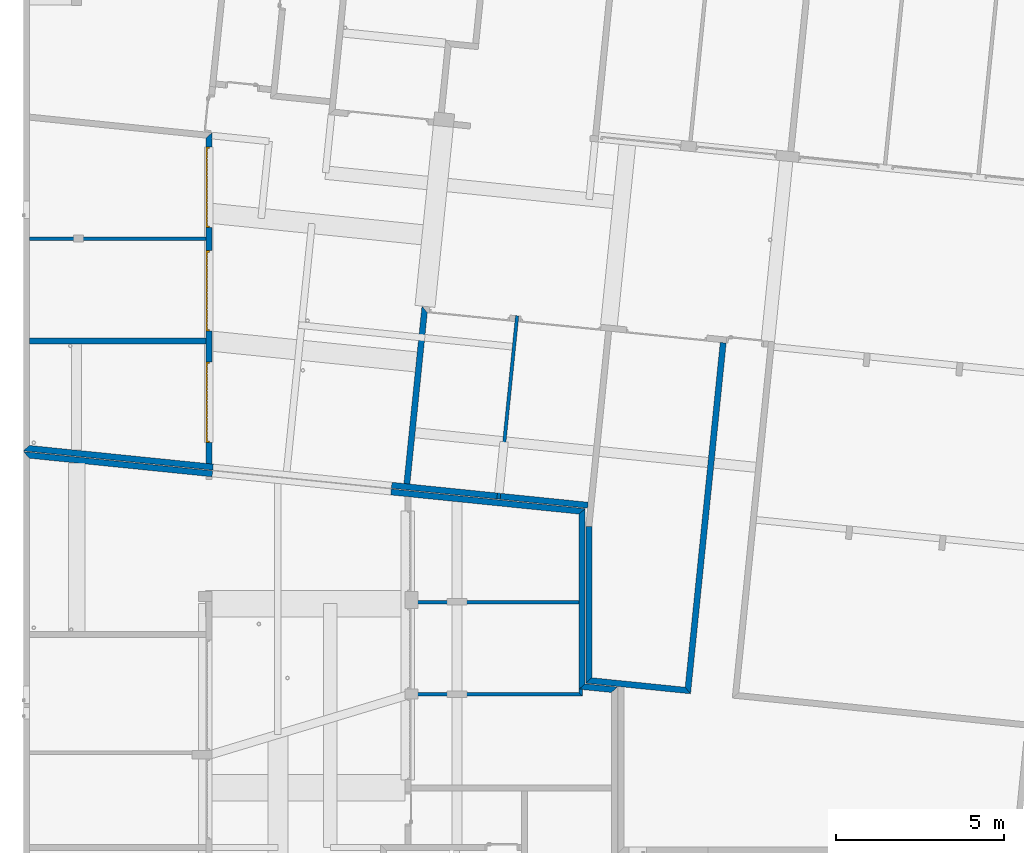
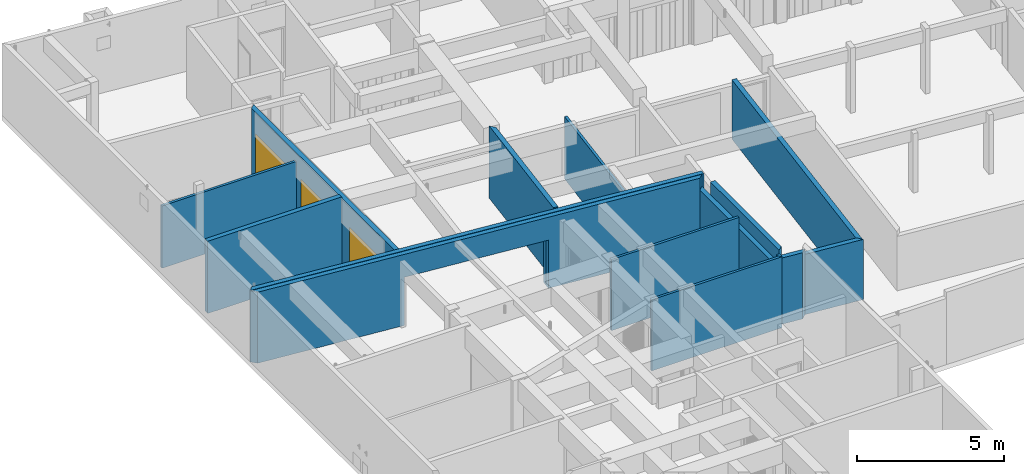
# One storey, part 15 of 41: 15 walls, 3 doors, 5 openings.
"""IFC2X3 building model written with IfcOpenShell, lengths in millimetres."""

from ifc_helpers import new_model, entity, si_unit, converted_unit, derived_unit, money_unit, direction, frame, origin_with_axes, origin_2d_with_axis, place, context, subcontext, project, spatial, polyline, rectangle, outline, extrude, faceted_brep, source, transform, mapped, material, layer, layer_set, layer_usage, type_object, element, fill, save


model = new_model("IFC2X3")

# Units and contexts
model_context = context("Model", 3, precision=0.01, world=origin_with_axes(), true_north=direction((0.0, 1.0)))
body_context = subcontext(model_context, "Body", "Model", "MODEL_VIEW")
ifc_project = project(units=[si_unit("LENGTHUNIT", "METRE", prefix="MILLI"), si_unit("AREAUNIT", "SQUARE_METRE"), si_unit("VOLUMEUNIT", "CUBIC_METRE"), converted_unit("PLANEANGLEUNIT", "DEGREE", entity("IfcPlaneAngleMeasure", 0.0174532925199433), si_unit("PLANEANGLEUNIT", "RADIAN"), dimensions=[0, 0, 0, 0, 0, 0, 0]), money_unit("USD"), converted_unit("TIMEUNIT", "Year", entity("IfcTimeMeasure", 31557600.0), si_unit("TIMEUNIT", "SECOND"), dimensions=[0, 0, 1, 0, 0, 0, 0]), si_unit("MASSUNIT", "GRAM", prefix="KILO"), si_unit("THERMODYNAMICTEMPERATUREUNIT", "DEGREE_CELSIUS"), si_unit("LUMINOUSINTENSITYUNIT", "LUMEN"), si_unit("ENERGYUNIT", "JOULE", prefix="MEGA"), derived_unit("THERMALCONDUCTANCEUNIT", [(si_unit("POWERUNIT", "WATT"), 1), (si_unit("LENGTHUNIT", "METRE"), -1), (si_unit("THERMODYNAMICTEMPERATUREUNIT", "KELVIN"), -1)]), derived_unit("SPECIFICHEATCAPACITYUNIT", [(si_unit("ENERGYUNIT", "JOULE"), 1), (si_unit("MASSUNIT", "GRAM", prefix="KILO"), -1), (si_unit("THERMODYNAMICTEMPERATUREUNIT", "KELVIN"), -1)]), derived_unit("MASSDENSITYUNIT", [(si_unit("MASSUNIT", "GRAM", prefix="KILO"), 1), (si_unit("VOLUMEUNIT", "CUBIC_METRE"), -1)])], contexts=[model_context])

# Site, building, storey
site_placement = place(None, origin_with_axes())
site = spatial("IfcSite", under=ifc_project, at=site_placement, Name="Site", CompositionType="ELEMENT")
building_placement = place(site_placement, origin_with_axes())
building = spatial("IfcBuilding", under=site, at=building_placement, Name="Bâtiment", CompositionType="ELEMENT")
storey_placement = place(building_placement, origin_with_axes())
storey = spatial("IfcBuildingStorey", under=building, at=storey_placement, Name="sousol", CompositionType="ELEMENT", Elevation=0.0)

# Walls
ifc_material_1 = material(Name="Brique 1 268964100")
ifc_layer_1 = layer(ifc_material_1, 100.0, ventilated="UNKNOWN")
ifc_layer_set_1 = layer_set([ifc_layer_1], Name="Cloison 100 gaine")
ifc_layer_usage_1 = layer_usage(ifc_layer_set_1, "AXIS2", "POSITIVE", 0.0)
wall_type_1 = type_object("IfcWallType", Name="Cloison 100 gaine 100", PredefinedType="NOTDEFINED")
wall_1_placement = place(storey_placement, frame((2228014.233344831, -625250.539288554, 0.0), z_axis=(0.0, 0.0, 1.0), x_axis=(1.0, 0.0, 0.0)))
element("IfcWallStandardCase", 1, at=wall_1_placement, inside=storey, type_object=wall_type_1, material=ifc_layer_usage_1, Name="Mur-133", context=body_context, shape_type="SweptSolid", body=[
    extrude(outline(polyline([(179.99999999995, 0.0), (5199.999999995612, 0.0), (5199.999999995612, 100.0000000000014), (179.99999999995, 100.0000000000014), (179.99999999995, 0.0)])), origin_with_axes(), (0.0, 0.0, 1.0), 2950.0),
])
ifc_layer_usage_2 = layer_usage(ifc_layer_set_1, "AXIS2", "POSITIVE", 0.0)
wall_2_placement = place(storey_placement, frame((2228014.233344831, -628000.539288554, 0.0), z_axis=(0.0, 0.0, 1.0), x_axis=(1.0, 0.0, 0.0)))
element("IfcWallStandardCase", 2, at=wall_2_placement, inside=storey, type_object=wall_type_1, material=ifc_layer_usage_2, Name="Mur-133", context=body_context, shape_type="SweptSolid", body=[
    extrude(outline(polyline([(179.99999999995, 0.0), (5299.999999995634, 0.0), (5199.999999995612, 100.0000000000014), (179.99999999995, 100.0000000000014), (179.99999999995, 0.0)])), origin_with_axes(), (0.0, 0.0, 1.0), 2950.0),
])
ifc_layer_usage_3 = layer_usage(ifc_layer_set_1, "AXIS2", "NEGATIVE", 0.0)
wall_3_placement = place(storey_placement, frame((2233214.233344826, -628000.539288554, 0.0), z_axis=(0.0, 0.0, 1.0), x_axis=(0.0, 1.0, 0.0)))
element("IfcWallStandardCase", 3, at=wall_3_placement, inside=storey, type_object=wall_type_1, material=ifc_layer_usage_3, Name="Mur-133", context=body_context, shape_type="SweptSolid", body=[
    extrude(outline(polyline([(0.0, -100.0000000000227), (200.1516925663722, -100.0000000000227), (200.1516925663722, 0.0), (100.0000000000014, 0.0), (0.0, -100.0000000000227)])), origin_with_axes(), (0.0, 0.0, 1.0), 2950.0),
])
ifc_layer_usage_4 = layer_usage(ifc_layer_set_1, "AXIS2", "POSITIVE", 0.0)
wall_4_placement = place(storey_placement, frame((2216634.233344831, -614407.5058083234, 0.0), z_axis=(0.0, 0.0, 1.0), x_axis=(1.0, 0.0, 0.0)))
element("IfcWallStandardCase", 4, at=wall_4_placement, inside=storey, type_object=wall_type_1, material=ifc_layer_usage_4, Name="Mur-133", context=body_context, shape_type="SweptSolid", body=[
    extrude(outline(polyline([(179.9999999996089, 0.0), (5450.00000000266, 0.0), (5450.00000000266, 100.0000000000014), (179.9999999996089, 100.0000000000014), (179.9999999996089, 0.0)])), origin_with_axes(), (0.0, 0.0, 1.0), 2586.039272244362),
])
ifc_layer_usage_5 = layer_usage(ifc_layer_set_1, "AXIS2", "NEGATIVE", 0.0)
wall_5_placement = place(storey_placement, frame((2230760.918828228, -622124.956043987, 0.0), z_axis=(0.0, 0.0, 1.0), x_axis=(0.1011032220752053, 0.9948759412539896, 0.0)))
element("IfcWallStandardCase", 5, at=wall_5_placement, inside=storey, type_object=wall_type_1, material=ifc_layer_usage_5, Name="Mur-133", context=body_context, shape_type="SweptSolid", body=[
    extrude(outline(polyline([(0.0, -99.99999999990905), (5499.999999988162, -99.99999999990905), (5499.999999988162, 0.0), (0.0, 0.0), (0.0, -99.99999999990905)])), origin_with_axes(), (0.0, 0.0, 1.0), 2586.039272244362),
])
ifc_material_2 = material(Name="Parpaing 314940890")
ifc_layer_2 = layer(ifc_material_2, 180.0, ventilated="UNKNOWN")
ifc_layer_set_2 = layer_set([ifc_layer_2], Name="Beton  18 0170347028")
ifc_layer_usage_6 = layer_usage(ifc_layer_set_2, "AXIS2", "NEGATIVE", 0.0)
wall_type_2 = type_object("IfcWallType", Name="Beton  18 0170347028 180", PredefinedType="NOTDEFINED")
wall_6_placement = place(storey_placement, frame((2233394.233344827, -622593.6074482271, 0.0), z_axis=(0.0, 0.0, 1.0), x_axis=(0.0, -1.0, 0.0)))
element("IfcWallStandardCase", 6, at=wall_6_placement, inside=storey, type_object=wall_type_2, material=ifc_layer_usage_6, Name="Mur-132", context=body_context, shape_type="SweptSolid", body=[
    extrude(outline(polyline([(-18.29231084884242, -179.99999999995), (5206.780147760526, -179.99999999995), (5044.14537761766, 0.0), (-180.9270809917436, 0.0), (-18.29231084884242, -179.99999999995)])), origin_with_axes(), (0.0, 0.0, 1.0), 2459.999999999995),
])
ifc_layer_usage_7 = layer_usage(ifc_layer_set_2, "AXIS2", "NEGATIVE", 0.0)
wall_7_placement = place(storey_placement, frame((2227969.512001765, -621841.2957522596, 0.0), z_axis=(0.0, 0.0, 1.0), x_axis=(0.1011032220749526, 0.9948759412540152, 0.0)))
element("IfcWallStandardCase", 7, at=wall_7_placement, inside=storey, type_object=wall_type_2, material=ifc_layer_usage_7, Name="Mur-132", context=body_context, shape_type="SweptSolid", body=[
    extrude(outline(polyline([(179.9999999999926, -180.0000000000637), (5319.999999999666, -180.0000000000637), (5499.999999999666, 0.0), (179.9999999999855, 0.0), (179.9999999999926, -180.0000000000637)])), origin_with_axes(), (0.0, 0.0, 1.0), 3000.0),
])
ifc_layer_usage_8 = layer_usage(ifc_layer_set_2, "AXIS2", "POSITIVE", 0.0)
wall_8_placement = place(storey_placement, frame((2216634.233344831, -617507.5058083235, 0.0), z_axis=(0.0, 0.0, 1.0), x_axis=(1.0, 0.0, 0.0)))
element("IfcWallStandardCase", 8, at=wall_8_placement, inside=storey, type_object=wall_type_2, material=ifc_layer_usage_8, Name="Mur-132", context=body_context, shape_type="SweptSolid", body=[
    extrude(outline(polyline([(179.9999999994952, 0.0), (5450.000000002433, 0.0), (5450.000000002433, 179.9999999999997), (179.9999999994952, 179.9999999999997), (179.9999999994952, 0.0)])), origin_with_axes(), (0.0, 0.0, 1.0), 3000.0),
])

# Wall, opening
ifc_layer_usage_9 = layer_usage(ifc_layer_set_2, "AXIS2", "NEGATIVE", 0.0)
wall_9_placement = place(storey_placement, frame((2233468.920997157, -622400.1674124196, 0.0), z_axis=(0.0, 0.0, 1.0), x_axis=(-0.9948759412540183, 0.1011032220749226, 0.0)))
wall_9 = element("IfcWallStandardCase", 9, at=wall_9_placement, inside=storey, type_object=wall_type_2, material=ifc_layer_usage_9, Name="Mur-132", context=body_context, shape_type="SweptSolid", body=[
    extrude(outline(polyline([(0.04832833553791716, -179.9999999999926), (16758.75909843, -179.9999999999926), (16921.39386857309, 0.0), (-1.13686837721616e-10, 0.0), (0.04832833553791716, -179.9999999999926)])), origin_with_axes(), (0.0, 0.0, 1.0), 2950.0),
])
opening_1_placement = place(wall_9_placement, frame((8563.581693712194, 0.0, 0.0), z_axis=(0.0, 0.0, 1.0), x_axis=(1.0, 0.0, 0.0)))
element("IfcOpeningElement", 10, at=opening_1_placement, cuts=wall_9, Name="Por-253", context=body_context, shape_type="SweptSolid", body=[
    extrude(rectangle(XDim=5356.980703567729, YDim=2000.0, at=origin_2d_with_axis()), frame((0.0, -180.000000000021, 999.9999999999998), z_axis=(0.0, 1.0, 0.0), x_axis=(1.0, 0.0, 0.0)), (0.0, 0.0, -1.0), 180.0),
    extrude(rectangle(XDim=5356.980703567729, YDim=2000.0, at=origin_2d_with_axis()), frame((0.0, -180.0000000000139, 999.9999999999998), z_axis=(0.0, -1.0, 0.0), x_axis=(1.0, 0.0, 0.0)), (0.0, 0.0, -1.0), 180.0),
])

ifc_layer_usage_10 = layer_usage(ifc_layer_set_2, "AXIS2", "NEGATIVE", 0.0)
wall_10_placement = place(storey_placement, frame((2233394.233344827, -622593.6074482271, 0.0), z_axis=(0.0, 0.0, 1.0), x_axis=(-0.9948759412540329, 0.1011032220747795, 0.0)))
wall_10 = element("IfcWallStandardCase", 11, at=wall_10_placement, inside=storey, type_object=wall_type_2, material=ifc_layer_usage_10, Name="Mur-133", context=body_context, shape_type="SweptSolid", body=[
    extrude(outline(polyline([(18.29231084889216, -179.9999999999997), (16864.61385207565, -180.0000000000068), (16665.39446023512, 0.0), (180.9270809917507, 0.0), (18.29231084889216, -179.9999999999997)])), origin_with_axes(), (0.0, 0.0, 1.0), 2950.0),
])
opening_2_placement = place(wall_10_placement, frame((8508.8341561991, 0.0, 0.0), z_axis=(0.0, 0.0, 1.0), x_axis=(1.0, 0.0, 0.0)))
element("IfcOpeningElement", 12, at=opening_2_placement, cuts=wall_10, Name="Por-254", context=body_context, shape_type="SweptSolid", body=[
    extrude(rectangle(XDim=5356.980703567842, YDim=2000.0, at=origin_2d_with_axis()), frame((0.0, 0.0, 999.9999999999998), z_axis=(0.0, -1.0, 0.0), x_axis=(1.0, 0.0, 0.0)), (0.0, 0.0, -1.0), 180.0),
    extrude(rectangle(XDim=5356.980703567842, YDim=2000.0, at=origin_2d_with_axis()), frame((0.0, 0.0, 999.9999999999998), z_axis=(0.0, 1.0, 0.0), x_axis=(1.0, 0.0, 0.0)), (0.0, 0.0, -1.0), 180.0),
])

# Wall
ifc_layer_usage_11 = layer_usage(ifc_layer_set_2, "AXIS2", "NEGATIVE", 0.0)
wall_11_placement = place(storey_placement, frame((2233394.233344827, -627637.7528258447, 0.0), z_axis=(0.0, 0.0, 1.0), x_axis=(0.994875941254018, -0.1011032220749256, 0.0)))
element("IfcWallStandardCase", 13, at=wall_11_placement, inside=storey, type_object=wall_type_2, material=ifc_layer_usage_11, Name="Mur-133", context=body_context, shape_type="SweptSolid", body=[
    extrude(outline(polyline([(-162.6347701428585, -180.0000000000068), (804.7300641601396, -179.9999999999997), (967.3648343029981, 0.0), (0.0, 0.0), (-162.6347701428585, -180.0000000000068)])), origin_with_axes(), (0.0, 0.0, 1.0), 2749.08057622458),
])

# Wall, openings, doors
ifc_layer_usage_12 = layer_usage(ifc_layer_set_2, "AXIS2", "NEGATIVE", 0.0)
wall_12_placement = place(storey_placement, frame((2222264.233344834, -611195.1773865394, 0.0), z_axis=(0.0, 0.0, 1.0), x_axis=(0.0, -1.0, 0.0)))
wall_12 = element("IfcWallStandardCase", 14, at=wall_12_placement, inside=storey, type_object=wall_type_2, material=ifc_layer_usage_12, Name="Mur-133", context=body_context, shape_type="SweptSolid", body=[
    extrude(outline(polyline([(162.6347701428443, -179.99999999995), (9867.106025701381, -179.99999999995), (9885.398336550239, 0.0), (0.0, 0.0), (162.6347701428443, -179.99999999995)])), origin_with_axes(), (0.0, 0.0, 1.0), 2950.0),
])
opening_3_placement = place(wall_12_placement, frame((4719.738371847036, -6.821210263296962e-10, 0.0), z_axis=(0.0, 0.0, 1.0), x_axis=(1.0, 0.0, 0.0)))
opening_3 = element("IfcOpeningElement", 15, at=opening_3_placement, cuts=wall_12, Name="Por-296", context=body_context, shape_type="SweptSolid", body=[
    extrude(rectangle(XDim=2400.000000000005, YDim=2050.0, at=origin_2d_with_axis()), frame((0.0, -179.9999999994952, 1025.0), z_axis=(0.0, 1.0, 0.0), x_axis=(1.0, 0.0, 0.0)), (0.0, 0.0, -1.0), 180.0),
    extrude(rectangle(XDim=2400.000000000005, YDim=2050.0, at=origin_2d_with_axis()), frame((0.0, -179.9999999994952, 1025.0), z_axis=(0.0, -1.0, 0.0), x_axis=(1.0, 0.0, 0.0)), (0.0, 0.0, -1.0), 180.0),
])
opening_4_placement = place(wall_12_placement, frame((1629.619902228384, -3.410605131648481e-10, 0.0), z_axis=(0.0, 0.0, 1.0), x_axis=(1.0, 0.0, 0.0)))
opening_4 = element("IfcOpeningElement", 16, at=opening_4_placement, cuts=wall_12, Name="Por-296", context=body_context, shape_type="SweptSolid", body=[
    extrude(rectangle(XDim=2400.000000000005, YDim=2050.0, at=origin_2d_with_axis()), frame((0.0, -179.9999999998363, 1025.0), z_axis=(0.0, 1.0, 0.0), x_axis=(1.0, 0.0, 0.0)), (0.0, 0.0, -1.0), 180.0),
    extrude(rectangle(XDim=2400.000000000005, YDim=2050.0, at=origin_2d_with_axis()), frame((0.0, -179.9999999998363, 1025.0), z_axis=(0.0, -1.0, 0.0), x_axis=(1.0, 0.0, 0.0)), (0.0, 0.0, -1.0), 180.0),
])
opening_5_placement = place(wall_12_placement, frame((8043.627181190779, -9.094947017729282e-10, 0.0), z_axis=(0.0, 0.0, 1.0), x_axis=(1.0, 0.0, 0.0)))
opening_5 = element("IfcOpeningElement", 17, at=opening_5_placement, cuts=wall_12, Name="Por-296", context=body_context, shape_type="SweptSolid", body=[
    extrude(rectangle(XDim=2399.999999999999, YDim=2050.0, at=origin_2d_with_axis()), frame((0.0, -179.9999999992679, 1025.0), z_axis=(0.0, 1.0, 0.0), x_axis=(1.0, 0.0, 0.0)), (0.0, 0.0, -1.0), 180.0),
    extrude(rectangle(XDim=2399.999999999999, YDim=2050.0, at=origin_2d_with_axis()), frame((0.0, -179.9999999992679, 1025.0), z_axis=(0.0, -1.0, 0.0), x_axis=(1.0, 0.0, 0.0)), (0.0, 0.0, -1.0), 180.0),
])
door_style = type_object("IfcDoorStyle", Name="P_garage 1", ConstructionType="NOTDEFINED", OperationType="NOTDEFINED", ParameterTakesPrecedence=False, Sizeable=False)
shared_shape = source(origin_with_axes(), body_context, "Body", "Brep", [
    faceted_brep([(-1200.0, 0.0, 0.0), (-1150.0, 0.0, 0.0), (-1150.0, -100.0, 0.0), (-1200.0, -100.0, 0.0), (-1200.0, 0.0, 2050.0), (1200.0, 0.0, 2050.0), (1200.0, 0.0, 0.0), (1150.0, 0.0, 0.0), (1150.0, 0.0, 2000.0), (-1150.0, 0.0, 2000.0), (-1150.0, -100.0, 2000.0), (1150.0, -100.0, 2000.0), (1150.0, -100.0, 0.0), (1200.0, -100.0, 0.0), (1200.0, -100.0, 2050.0), (-1200.0, -100.0, 2050.0)], [[[0, 1, 2, 3]], [[0, 4, 5, 6, 7, 8, 9, 1]], [[1, 9, 10, 2]], [[3, 2, 10, 11, 12, 13, 14, 15]], [[4, 0, 3, 15]], [[5, 4, 15, 14]], [[6, 5, 14, 13]], [[7, 6, 13, 12]], [[8, 7, 12, 11]], [[9, 8, 11, 10]]]),
    faceted_brep([(-1069.130434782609, -40.0, 0.0), (-1069.130434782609, -26.66666666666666, 0.0), (-1069.130434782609, -26.66666666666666, 2000.0), (-1069.130434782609, -40.0, 2000.0), (-1150.0, -40.0, 0.0), (-1150.0, -26.66666666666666, 0.0), (-1150.0, -26.66666666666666, 2000.0), (-1150.0, -40.0, 2000.0)], [[[0, 1, 2, 3]], [[4, 5, 1, 0]], [[1, 5, 6, 2]], [[3, 2, 6, 7]], [[0, 3, 7, 4]], [[7, 6, 5, 4]]]),
    faceted_brep([(-968.2608695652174, -40.0, 0.0), (-968.2608695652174, -26.66666666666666, 0.0), (-968.2608695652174, -26.66666666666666, 2000.0), (-968.2608695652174, -40.0, 2000.0), (-1049.130434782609, -40.0, 0.0), (-1049.130434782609, -26.66666666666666, 0.0), (-1049.130434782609, -26.66666666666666, 2000.0), (-1049.130434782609, -40.0, 2000.0)], [[[0, 1, 2, 3]], [[4, 5, 1, 0]], [[1, 5, 6, 2]], [[3, 2, 6, 7]], [[0, 3, 7, 4]], [[7, 6, 5, 4]]]),
    faceted_brep([(-867.3913043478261, -40.0, 0.0), (-867.3913043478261, -26.66666666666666, 0.0), (-867.3913043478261, -26.66666666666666, 2000.0), (-867.3913043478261, -40.0, 2000.0), (-948.2608695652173, -40.0, 0.0), (-948.2608695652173, -26.66666666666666, 0.0), (-948.2608695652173, -26.66666666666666, 2000.0), (-948.2608695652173, -40.0, 2000.0)], [[[0, 1, 2, 3]], [[4, 5, 1, 0]], [[1, 5, 6, 2]], [[3, 2, 6, 7]], [[0, 3, 7, 4]], [[7, 6, 5, 4]]]),
    faceted_brep([(-766.5217391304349, -40.0, 0.0), (-766.5217391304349, -26.66666666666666, 0.0), (-766.5217391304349, -26.66666666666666, 2000.0), (-766.5217391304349, -40.0, 2000.0), (-847.391304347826, -40.0, 0.0), (-847.391304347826, -26.66666666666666, 0.0), (-847.391304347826, -26.66666666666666, 2000.0), (-847.391304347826, -40.0, 2000.0)], [[[0, 1, 2, 3]], [[4, 5, 1, 0]], [[1, 5, 6, 2]], [[3, 2, 6, 7]], [[0, 3, 7, 4]], [[7, 6, 5, 4]]]),
    faceted_brep([(-665.6521739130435, -40.0, 0.0), (-665.6521739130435, -26.66666666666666, 0.0), (-665.6521739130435, -26.66666666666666, 2000.0), (-665.6521739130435, -40.0, 2000.0), (-746.5217391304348, -40.0, 0.0), (-746.5217391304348, -26.66666666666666, 0.0), (-746.5217391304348, -26.66666666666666, 2000.0), (-746.5217391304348, -40.0, 2000.0)], [[[0, 1, 2, 3]], [[4, 5, 1, 0]], [[1, 5, 6, 2]], [[3, 2, 6, 7]], [[0, 3, 7, 4]], [[7, 6, 5, 4]]]),
    faceted_brep([(-564.7826086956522, -40.0, 0.0), (-564.7826086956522, -26.66666666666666, 0.0), (-564.7826086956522, -26.66666666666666, 2000.0), (-564.7826086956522, -40.0, 2000.0), (-645.6521739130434, -40.0, 0.0), (-645.6521739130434, -26.66666666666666, 0.0), (-645.6521739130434, -26.66666666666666, 2000.0), (-645.6521739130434, -40.0, 2000.0)], [[[0, 1, 2, 3]], [[4, 5, 1, 0]], [[1, 5, 6, 2]], [[3, 2, 6, 7]], [[0, 3, 7, 4]], [[7, 6, 5, 4]]]),
    faceted_brep([(-463.9130434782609, -40.0, 0.0), (-463.9130434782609, -26.66666666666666, 0.0), (-463.9130434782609, -26.66666666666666, 2000.0), (-463.9130434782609, -40.0, 2000.0), (-544.7826086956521, -40.0, 0.0), (-544.7826086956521, -26.66666666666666, 0.0), (-544.7826086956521, -26.66666666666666, 2000.0), (-544.7826086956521, -40.0, 2000.0)], [[[0, 1, 2, 3]], [[4, 5, 1, 0]], [[1, 5, 6, 2]], [[3, 2, 6, 7]], [[0, 3, 7, 4]], [[7, 6, 5, 4]]]),
    faceted_brep([(-363.0434782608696, -40.0, 0.0), (-363.0434782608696, -26.66666666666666, 0.0), (-363.0434782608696, -26.66666666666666, 2000.0), (-363.0434782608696, -40.0, 2000.0), (-443.9130434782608, -40.0, 0.0), (-443.9130434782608, -26.66666666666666, 0.0), (-443.9130434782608, -26.66666666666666, 2000.0), (-443.9130434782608, -40.0, 2000.0)], [[[0, 1, 2, 3]], [[4, 5, 1, 0]], [[1, 5, 6, 2]], [[3, 2, 6, 7]], [[0, 3, 7, 4]], [[7, 6, 5, 4]]]),
    faceted_brep([(-262.1739130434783, -40.0, 0.0), (-262.1739130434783, -26.66666666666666, 0.0), (-262.1739130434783, -26.66666666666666, 2000.0), (-262.1739130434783, -40.0, 2000.0), (-343.0434782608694, -40.0, 0.0), (-343.0434782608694, -26.66666666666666, 0.0), (-343.0434782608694, -26.66666666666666, 2000.0), (-343.0434782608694, -40.0, 2000.0)], [[[0, 1, 2, 3]], [[4, 5, 1, 0]], [[1, 5, 6, 2]], [[3, 2, 6, 7]], [[0, 3, 7, 4]], [[7, 6, 5, 4]]]),
    faceted_brep([(-161.3043478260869, -40.0, 0.0), (-161.3043478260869, -26.66666666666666, 0.0), (-161.3043478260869, -26.66666666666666, 2000.0), (-161.3043478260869, -40.0, 2000.0), (-242.1739130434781, -40.0, 0.0), (-242.1739130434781, -26.66666666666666, 0.0), (-242.1739130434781, -26.66666666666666, 2000.0), (-242.1739130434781, -40.0, 2000.0)], [[[0, 1, 2, 3]], [[4, 5, 1, 0]], [[1, 5, 6, 2]], [[3, 2, 6, 7]], [[0, 3, 7, 4]], [[7, 6, 5, 4]]]),
    faceted_brep([(-60.43478260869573, -40.0, 0.0), (-60.43478260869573, -26.66666666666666, 0.0), (-60.43478260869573, -26.66666666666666, 2000.0), (-60.43478260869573, -40.0, 2000.0), (-141.3043478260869, -40.0, 0.0), (-141.3043478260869, -26.66666666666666, 0.0), (-141.3043478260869, -26.66666666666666, 2000.0), (-141.3043478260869, -40.0, 2000.0)], [[[0, 1, 2, 3]], [[4, 5, 1, 0]], [[1, 5, 6, 2]], [[3, 2, 6, 7]], [[0, 3, 7, 4]], [[7, 6, 5, 4]]]),
    faceted_brep([(40.43478260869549, -40.0, 0.0), (40.43478260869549, -26.66666666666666, 0.0), (40.43478260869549, -26.66666666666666, 2000.0), (40.43478260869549, -40.0, 2000.0), (-40.43478260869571, -40.0, 0.0), (-40.43478260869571, -26.66666666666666, 0.0), (-40.43478260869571, -26.66666666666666, 2000.0), (-40.43478260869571, -40.0, 2000.0)], [[[0, 1, 2, 3]], [[4, 5, 1, 0]], [[1, 5, 6, 2]], [[3, 2, 6, 7]], [[0, 3, 7, 4]], [[7, 6, 5, 4]]]),
    faceted_brep([(141.3043478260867, -40.0, 0.0), (141.3043478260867, -26.66666666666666, 0.0), (141.3043478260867, -26.66666666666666, 2000.0), (141.3043478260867, -40.0, 2000.0), (60.4347826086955, -40.0, 0.0), (60.4347826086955, -26.66666666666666, 0.0), (60.4347826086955, -26.66666666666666, 2000.0), (60.4347826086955, -40.0, 2000.0)], [[[0, 1, 2, 3]], [[4, 5, 1, 0]], [[1, 5, 6, 2]], [[3, 2, 6, 7]], [[0, 3, 7, 4]], [[7, 6, 5, 4]]]),
    faceted_brep([(242.1739130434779, -40.0, 0.0), (242.1739130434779, -26.66666666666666, 0.0), (242.1739130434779, -26.66666666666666, 2000.0), (242.1739130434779, -40.0, 2000.0), (161.3043478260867, -40.0, 0.0), (161.3043478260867, -26.66666666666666, 0.0), (161.3043478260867, -26.66666666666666, 2000.0), (161.3043478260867, -40.0, 2000.0)], [[[0, 1, 2, 3]], [[4, 5, 1, 0]], [[1, 5, 6, 2]], [[3, 2, 6, 7]], [[0, 3, 7, 4]], [[7, 6, 5, 4]]]),
    faceted_brep([(343.0434782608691, -40.0, 0.0), (343.0434782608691, -26.66666666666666, 0.0), (343.0434782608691, -26.66666666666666, 2000.0), (343.0434782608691, -40.0, 2000.0), (262.1739130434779, -40.0, 0.0), (262.1739130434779, -26.66666666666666, 0.0), (262.1739130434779, -26.66666666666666, 2000.0), (262.1739130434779, -40.0, 2000.0)], [[[0, 1, 2, 3]], [[4, 5, 1, 0]], [[1, 5, 6, 2]], [[3, 2, 6, 7]], [[0, 3, 7, 4]], [[7, 6, 5, 4]]]),
    faceted_brep([(443.9130434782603, -40.0, 0.0), (443.9130434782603, -26.66666666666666, 0.0), (443.9130434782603, -26.66666666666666, 2000.0), (443.9130434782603, -40.0, 2000.0), (363.0434782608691, -40.0, 0.0), (363.0434782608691, -26.66666666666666, 0.0), (363.0434782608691, -26.66666666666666, 2000.0), (363.0434782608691, -40.0, 2000.0)], [[[0, 1, 2, 3]], [[4, 5, 1, 0]], [[1, 5, 6, 2]], [[3, 2, 6, 7]], [[0, 3, 7, 4]], [[7, 6, 5, 4]]]),
    faceted_brep([(544.7826086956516, -40.0, 0.0), (544.7826086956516, -26.66666666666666, 0.0), (544.7826086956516, -26.66666666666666, 2000.0), (544.7826086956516, -40.0, 2000.0), (463.9130434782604, -40.0, 0.0), (463.9130434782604, -26.66666666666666, 0.0), (463.9130434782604, -26.66666666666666, 2000.0), (463.9130434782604, -40.0, 2000.0)], [[[0, 1, 2, 3]], [[4, 5, 1, 0]], [[1, 5, 6, 2]], [[3, 2, 6, 7]], [[0, 3, 7, 4]], [[7, 6, 5, 4]]]),
    faceted_brep([(645.6521739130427, -40.0, 0.0), (645.6521739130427, -26.66666666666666, 0.0), (645.6521739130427, -26.66666666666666, 2000.0), (645.6521739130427, -40.0, 2000.0), (564.7826086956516, -40.0, 0.0), (564.7826086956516, -26.66666666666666, 0.0), (564.7826086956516, -26.66666666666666, 2000.0), (564.7826086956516, -40.0, 2000.0)], [[[0, 1, 2, 3]], [[4, 5, 1, 0]], [[1, 5, 6, 2]], [[3, 2, 6, 7]], [[0, 3, 7, 4]], [[7, 6, 5, 4]]]),
    faceted_brep([(746.521739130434, -40.0, 0.0), (746.521739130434, -26.66666666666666, 0.0), (746.521739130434, -26.66666666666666, 2000.0), (746.521739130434, -40.0, 2000.0), (665.6521739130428, -40.0, 0.0), (665.6521739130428, -26.66666666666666, 0.0), (665.6521739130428, -26.66666666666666, 2000.0), (665.6521739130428, -40.0, 2000.0)], [[[0, 1, 2, 3]], [[4, 5, 1, 0]], [[1, 5, 6, 2]], [[3, 2, 6, 7]], [[0, 3, 7, 4]], [[7, 6, 5, 4]]]),
    faceted_brep([(847.3913043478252, -40.0, 0.0), (847.3913043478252, -26.66666666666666, 0.0), (847.3913043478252, -26.66666666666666, 2000.0), (847.3913043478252, -40.0, 2000.0), (766.521739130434, -40.0, 0.0), (766.521739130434, -26.66666666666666, 0.0), (766.521739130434, -26.66666666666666, 2000.0), (766.521739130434, -40.0, 2000.0)], [[[0, 1, 2, 3]], [[4, 5, 1, 0]], [[1, 5, 6, 2]], [[3, 2, 6, 7]], [[0, 3, 7, 4]], [[7, 6, 5, 4]]]),
    faceted_brep([(948.2608695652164, -40.0, 0.0), (948.2608695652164, -26.66666666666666, 0.0), (948.2608695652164, -26.66666666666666, 2000.0), (948.2608695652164, -40.0, 2000.0), (867.3913043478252, -40.0, 0.0), (867.3913043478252, -26.66666666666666, 0.0), (867.3913043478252, -26.66666666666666, 2000.0), (867.3913043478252, -40.0, 2000.0)], [[[0, 1, 2, 3]], [[4, 5, 1, 0]], [[1, 5, 6, 2]], [[3, 2, 6, 7]], [[0, 3, 7, 4]], [[7, 6, 5, 4]]]),
    faceted_brep([(1049.130434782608, -40.0, 0.0), (1049.130434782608, -26.66666666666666, 0.0), (1049.130434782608, -26.66666666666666, 2000.0), (1049.130434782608, -40.0, 2000.0), (968.2608695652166, -40.0, 0.0), (968.2608695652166, -26.66666666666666, 0.0), (968.2608695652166, -26.66666666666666, 2000.0), (968.2608695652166, -40.0, 2000.0)], [[[0, 1, 2, 3]], [[4, 5, 1, 0]], [[1, 5, 6, 2]], [[3, 2, 6, 7]], [[0, 3, 7, 4]], [[7, 6, 5, 4]]]),
    faceted_brep([(1149.999999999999, -40.0, 0.0), (1149.999999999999, -26.66666666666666, 0.0), (1149.999999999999, -26.66666666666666, 2000.0), (1149.999999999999, -40.0, 2000.0), (1069.130434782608, -40.0, 0.0), (1069.130434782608, -26.66666666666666, 0.0), (1069.130434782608, -26.66666666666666, 2000.0), (1069.130434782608, -40.0, 2000.0)], [[[0, 1, 2, 3]], [[4, 5, 1, 0]], [[1, 5, 6, 2]], [[3, 2, 6, 7]], [[0, 3, 7, 4]], [[7, 6, 5, 4]]]),
    faceted_brep([(-1150.0, -26.66666666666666, 0.0), (-1150.0, 0.0, 0.0), (1150.0, 0.0, 0.0), (1150.0, -26.66666666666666, 0.0), (-1150.0, -26.66666666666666, 2000.0), (-1150.0, 0.0, 2000.0), (1150.0, 0.0, 2000.0), (1150.0, -26.66666666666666, 2000.0)], [[[0, 1, 2, 3]], [[4, 5, 1, 0]], [[1, 5, 6, 2]], [[3, 2, 6, 7]], [[0, 3, 7, 4]], [[7, 6, 5, 4]]]),
])
door_1_placement = place(opening_5_placement, frame((1199.999999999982, -1.13686837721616e-10, 0.0), z_axis=(0.0, 0.0, 1.0), x_axis=(-1.0, 0.0, 0.0)))
door_1 = element("IfcDoor", 18, at=door_1_placement, inside=storey, type_object=door_style, Name="Por-296", OverallHeight=2050.0, OverallWidth=2400.0, context=body_context, shape_type="MappedRepresentation", body=[
    mapped(shared_shape, transform((1200.000000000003, 179.9999999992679, 0.0))),
])
fill(opening_5, door_1)
door_2_placement = place(opening_3_placement, frame((1200.00000000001, 1.13686837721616e-10, 0.0), z_axis=(0.0, 0.0, 1.0), x_axis=(-1.0, 0.0, 0.0)))
door_2 = element("IfcDoor", 19, at=door_2_placement, inside=storey, type_object=door_style, Name="Por-296", OverallHeight=2050.0, OverallWidth=2400.0, context=body_context, shape_type="MappedRepresentation", body=[
    mapped(shared_shape, transform((1200.000000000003, 179.9999999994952, 0.0))),
])
fill(opening_3, door_2)
door_3_placement = place(opening_4_placement, frame((1200.000000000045, 0.0, 0.0), z_axis=(0.0, 0.0, 1.0), x_axis=(-1.0, 0.0, 0.0)))
door_3 = element("IfcDoor", 20, at=door_3_placement, inside=storey, type_object=door_style, Name="Por-296", OverallHeight=2050.0, OverallWidth=2400.0, context=body_context, shape_type="MappedRepresentation", body=[
    mapped(shared_shape, transform((1200.000000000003, 179.9999999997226, 0.0))),
])
fill(opening_4, door_3)

# Walls
ifc_layer_usage_13 = layer_usage(ifc_layer_set_2, "AXIS2", "POSITIVE", 0.0)
wall_13_placement = place(storey_placement, frame((2236540.219510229, -627937.357354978, 0.0), z_axis=(0.0, 0.0, 1.0), x_axis=(0.1011032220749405, 0.9948759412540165, 0.0)))
element("IfcWallStandardCase", 21, at=wall_13_placement, inside=storey, type_object=wall_type_2, material=ifc_layer_usage_13, Name="Mur-132", context=body_context, shape_type="SweptSolid", body=[
    extrude(outline(polyline([(0.0, 0.0), (10518.29888037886, 0.0), (10518.29888037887, 179.99999999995), (179.9999999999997, 179.99999999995), (0.0, 0.0)])), origin_with_axes(), (0.0, 0.0, 1.0), 2459.999999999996),
])
ifc_layer_usage_14 = layer_usage(ifc_layer_set_2, "AXIS2", "NEGATIVE", 0.0)
wall_14_placement = place(storey_placement, frame((2236540.219510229, -627937.357354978, 0.0), z_axis=(0.0, 0.0, 1.0), x_axis=(-0.994875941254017, 0.101103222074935, 0.0)))
element("IfcWallStandardCase", 22, at=wall_14_placement, inside=storey, type_object=wall_type_2, material=ifc_layer_usage_14, Name="Mur-132", context=body_context, shape_type="SweptSolid", body=[
    extrude(outline(polyline([(180.0000000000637, -180.0000000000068), (2979.451630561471, -180.0000000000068), (3142.086400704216, 0.0), (1.13686837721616e-10, 0.0), (180.0000000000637, -180.0000000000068)])), origin_with_axes(), (0.0, 0.0, 1.0), 2499.999999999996),
])
ifc_layer_usage_15 = layer_usage(ifc_layer_set_2, "AXIS2", "NEGATIVE", 0.0)
wall_15_placement = place(storey_placement, frame((2233414.233344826, -627619.6822958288, 0.0), z_axis=(0.0, 0.0, 1.0), x_axis=(0.0, 1.0, 0.0)))
element("IfcWallStandardCase", 23, at=wall_15_placement, inside=storey, type_object=wall_type_2, material=ifc_layer_usage_15, Name="Mur-132", context=body_context, shape_type="SweptSolid", body=[
    extrude(outline(polyline([(162.634770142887, -179.99999999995), (4670.838753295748, -179.99999999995), (4679.93718974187, 0.0), (0.0, 0.0), (162.634770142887, -179.99999999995)])), origin_with_axes(), (0.0, 0.0, 1.0), 2950.0),
])

save(model, "model.ifc")
